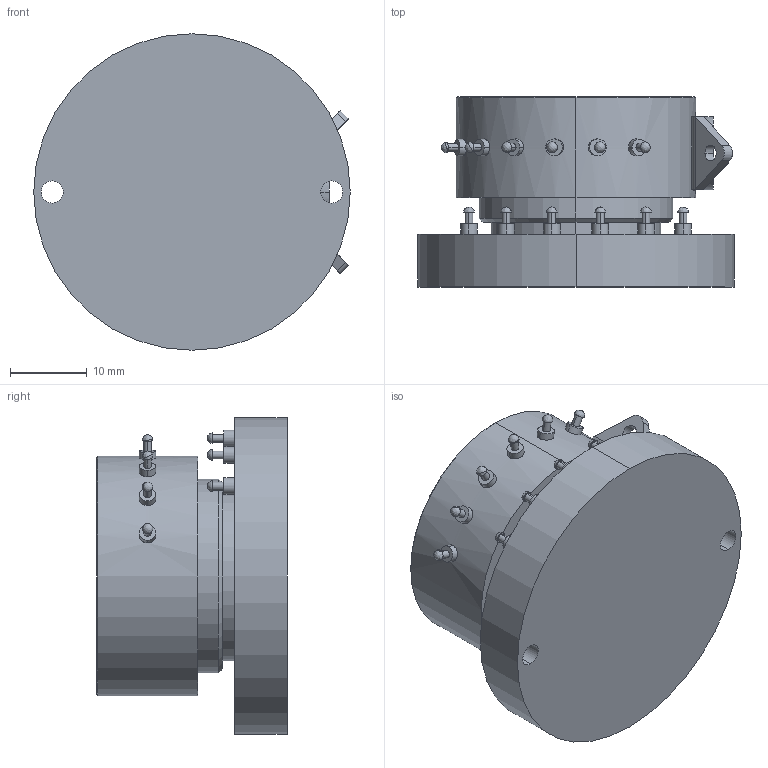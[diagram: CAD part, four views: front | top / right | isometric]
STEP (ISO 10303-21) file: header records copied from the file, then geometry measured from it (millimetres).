
FILE_DESCRIPTION (( 'STEP AP203' ), '1' );
FILE_NAME ('1007830.STEP', '2017-06-05T14:47:20', ( '' ), ( '' ), 'SwSTEP 2.0', 'SolidWorks 2014', '' );
FILE_SCHEMA (( 'CONFIG_CONTROL_DESIGN' ));
Length unit declared in the file: inch
Products named in the file (1): 1007830
Bounding box: 41.26 x 24.8 x 41.26 mm (x, y, z)
Volume: 21617.8 mm3; surface area: 6722.2 mm2
Topology: 1 solids, 3 shells, 649 faces, 1676 edges, 1094 vertices
Faces by surface type: plane 356, bspline 187, cylinder 98, cone 8
Entity records: 29221 total; most frequent: CARTESIAN_POINT 14615, ORIENTED_EDGE 3280, DIRECTION 2362, EDGE_CURVE 1640, VERTEX_POINT 1094, VECTOR 1072, LINE 1072, EDGE_LOOP 754
